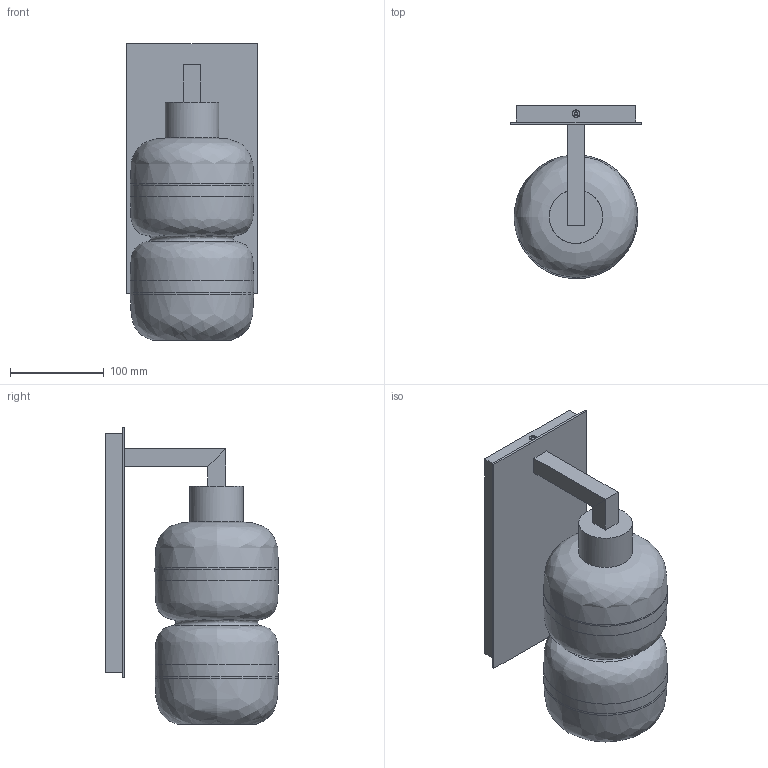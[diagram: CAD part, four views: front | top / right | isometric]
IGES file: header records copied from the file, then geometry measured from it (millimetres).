
Global section: file name: Niche - Pinch Petite - Sconce; native system: unknown; preprocessor: unknown; author: unknown; organization: unknown; date: 20220815.112234; units: inch
Bounding box: 139.7 x 184.51 x 315.96 mm (x, y, z)
Volume: 590175.6 mm3; surface area: 575045.8 mm2
Topology: 10 solids, 10 shells, 229 faces, 568 edges, 366 vertices
Faces by surface type: bspline 229
